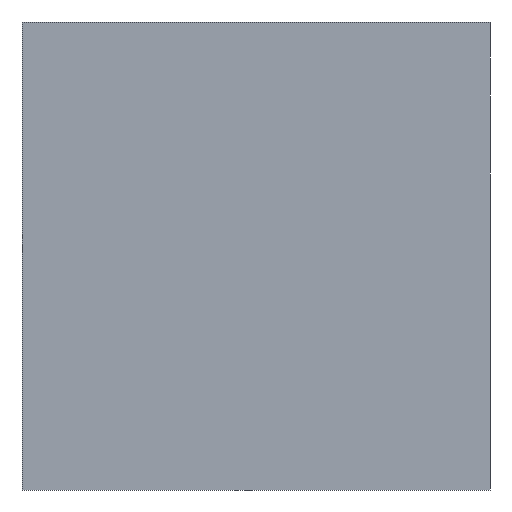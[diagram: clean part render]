
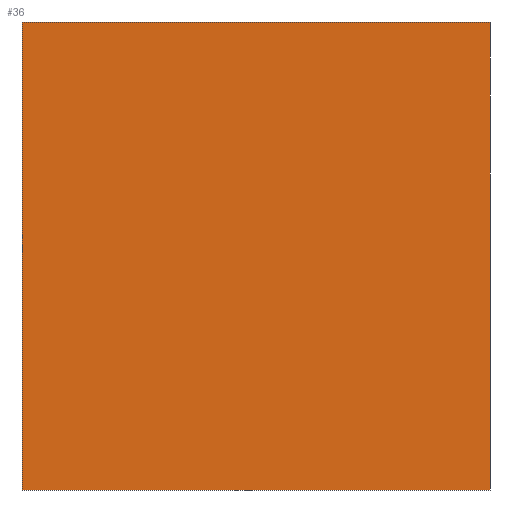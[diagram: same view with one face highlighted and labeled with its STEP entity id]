
A CAD part, front view. The second image highlights one B-rep face of the part: STEP entity #36.
In plain terms, the highlighted planar face has unit normal (0, -1, 0).
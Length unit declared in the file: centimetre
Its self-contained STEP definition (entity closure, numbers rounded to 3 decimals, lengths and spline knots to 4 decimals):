
#8 = LINE ( 'NONE', #220, #317 ) ;
#11 = DIRECTION ( 'NONE',  ( 0., 0., -1. ) ) ;
#15 = ORIENTED_EDGE ( 'NONE', *, *, #150, .F. ) ;
#36 = ADVANCED_FACE ( 'NONE', ( #227 ), #101, .F. ) ;
#43 = ORIENTED_EDGE ( 'NONE', *, *, #305, .F. ) ;
#50 = VERTEX_POINT ( 'NONE', #288 ) ;
#60 = EDGE_CURVE ( 'NONE', #264, #180, #85, .T. ) ;
#75 = DIRECTION ( 'NONE',  ( 0., 1., 0. ) ) ;
#85 = LINE ( 'NONE', #247, #307 ) ;
#91 = DIRECTION ( 'NONE',  ( 1., 0., 0. ) ) ;
#96 = CARTESIAN_POINT ( 'NONE',  ( 1000., 0., 1000. ) ) ;
#101 = PLANE ( 'NONE',  #314 ) ;
#109 = CARTESIAN_POINT ( 'NONE',  ( 0., 0., 1000. ) ) ;
#112 = VECTOR ( 'NONE', #168, 100. ) ;
#125 = VERTEX_POINT ( 'NONE', #96 ) ;
#137 = EDGE_CURVE ( 'NONE', #180, #50, #8, .T. ) ;
#150 = EDGE_CURVE ( 'NONE', #125, #50, #203, .T. ) ;
#164 = CARTESIAN_POINT ( 'NONE',  ( 1000., 0., 1000. ) ) ;
#168 = DIRECTION ( 'NONE',  ( 0., 0., -1. ) ) ;
#180 = VERTEX_POINT ( 'NONE', #245 ) ;
#181 = CARTESIAN_POINT ( 'NONE',  ( 0., 0., 1000. ) ) ;
#193 = ORIENTED_EDGE ( 'NONE', *, *, #137, .T. ) ;
#203 = LINE ( 'NONE', #164, #112 ) ;
#220 = CARTESIAN_POINT ( 'NONE',  ( 0., 0., 0. ) ) ;
#227 = FACE_OUTER_BOUND ( 'NONE', #322, .T. ) ;
#235 = LINE ( 'NONE', #109, #276 ) ;
#240 = DIRECTION ( 'NONE',  ( 0., 0., 1. ) ) ;
#241 = ORIENTED_EDGE ( 'NONE', *, *, #60, .T. ) ;
#245 = CARTESIAN_POINT ( 'NONE',  ( 0., 0., 0. ) ) ;
#247 = CARTESIAN_POINT ( 'NONE',  ( 0., 0., 1000. ) ) ;
#264 = VERTEX_POINT ( 'NONE', #181 ) ;
#276 = VECTOR ( 'NONE', #335, 100. ) ;
#288 = CARTESIAN_POINT ( 'NONE',  ( 1000., 0., 0. ) ) ;
#304 = CARTESIAN_POINT ( 'NONE',  ( 0., 0., 1000. ) ) ;
#305 = EDGE_CURVE ( 'NONE', #264, #125, #235, .T. ) ;
#307 = VECTOR ( 'NONE', #11, 100. ) ;
#314 = AXIS2_PLACEMENT_3D ( 'NONE', #304, #75, #240 ) ;
#317 = VECTOR ( 'NONE', #91, 100. ) ;
#322 = EDGE_LOOP ( 'NONE', ( #193, #15, #43, #241 ) ) ;
#335 = DIRECTION ( 'NONE',  ( 1., 0., 0. ) ) ;
